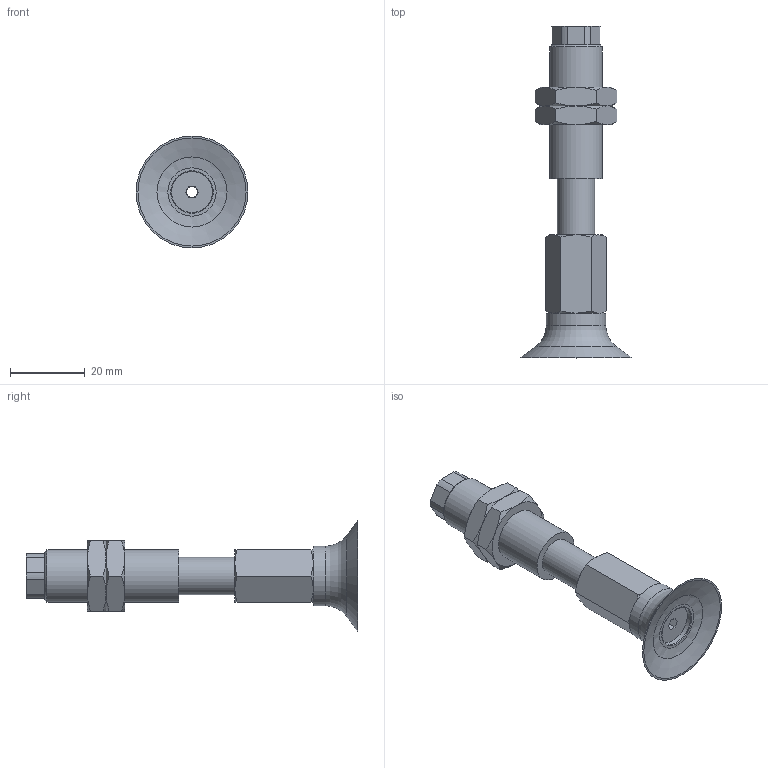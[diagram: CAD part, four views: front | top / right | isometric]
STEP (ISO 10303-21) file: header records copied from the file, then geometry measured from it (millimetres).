
FILE_DESCRIPTION(('STEP AP203'),'1');
FILE_NAME('.stp','2025-08-27T06:01:22',(' '),(' '),'Spatial InterOp 3D',' ',' ');
FILE_SCHEMA(('CONFIG_CONTROL_DESIGN'));
Length unit declared in the file: millimetre
Products named in the file (7): BNABPFTS-30-15-※; ADAPTER; NAPFTS-30-15-MBODY; TN-PF-30-M6-NAPF; Nut-30-15-s; NAPFTS-30-15-FBODY; BPFG-30-※
Assembly tree (7 placements, depth 2):
  BNABPFTS-30-15-※
    ADAPTER
    NAPFTS-30-15-MBODY
    TN-PF-30-M6-NAPF
    Nut-30-15-s  x2
    NAPFTS-30-15-FBODY
    BPFG-30-※
Bounding box: 30 x 89 x 30 mm (x, y, z)
Volume: 14712.2 mm3; surface area: 11426.6 mm2
Topology: 7 solids, 7 shells, 129 faces, 272 edges, 163 vertices
Faces by surface type: plane 56, cone 46, cylinder 21, torus 5, bspline 1
Full cylindrical faces by diameter (mm): 3 x3, 4.134 x1, 4.917 x1, 6 x2, 10 x2, 11 x2, 12.917 x2, 14 x1, 16 x1
Entity records: 3281 total; most frequent: CARTESIAN_POINT 801, DIRECTION 454, ORIENTED_EDGE 384, AXIS2_PLACEMENT_3D 197, EDGE_CURVE 192, EDGE_LOOP 152, VERTEX_POINT 132, FACE_OUTER_BOUND 126
